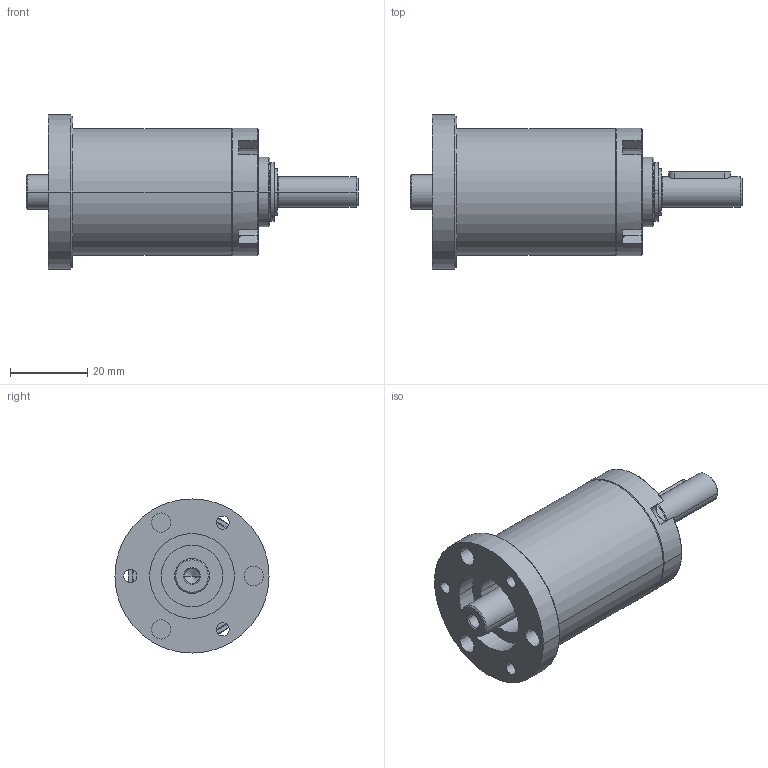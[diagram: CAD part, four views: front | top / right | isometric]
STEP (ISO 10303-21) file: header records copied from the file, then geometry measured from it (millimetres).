
FILE_DESCRIPTION((''),'2;1');
FILE_NAME('IMS33_ECO_MAX_LN_2_STAGE_ASM','2023-07-27T09:22:15',('mhummel'),(''),'CREO PARAMETRIC BY PTC INC, 2020184','CREO PARAMETRIC BY PTC INC, 2020184','');
FILE_SCHEMA(('AUTOMOTIVE_DESIGN { 1 0 10303 214 1 1 1 1 }'));
Length unit declared in the file: millimetre
Products named in the file (12): IMS33_ECO_MAX_LN_BEARING_FLANGE; IMS33_ECO_MAX_LN_SI_BEARING; IMS33_ECO_MAX_LN_RING_GEAR_2ST; IMS33_ECO_MAX_LA_MOTOR_FLANGE; IMS33_ECO_MAX_LN_SHAFT_RAW_AF0; IMS33_ECO_MAX_LN_SHAFT_ASM; IMS33_ECO_MAX_LN_FEATHER_KEY; IMS33_ECO_MAX_LN_RETAINING_RING; IMS33_ECO_MAX_LN_THRUST_WASHER; IMS33_ECO_MAX_LN_MO_PINION_LONG; IMS33_ECO_MAX_LN_MP_SHORT; IMS33_ECO_MAX_LN_2_STAGE_ASM
Assembly tree (11 placements, depth 3):
  IMS33_ECO_MAX_LN_2_STAGE_ASM
    IMS33_ECO_MAX_LN_BEARING_FLANGE
    IMS33_ECO_MAX_LN_SI_BEARING
    IMS33_ECO_MAX_LN_RING_GEAR_2ST
    IMS33_ECO_MAX_LA_MOTOR_FLANGE
    IMS33_ECO_MAX_LN_SHAFT_ASM
      IMS33_ECO_MAX_LN_SHAFT_RAW_AF0
    IMS33_ECO_MAX_LN_FEATHER_KEY
    IMS33_ECO_MAX_LN_RETAINING_RING
    IMS33_ECO_MAX_LN_THRUST_WASHER
    IMS33_ECO_MAX_LN_MO_PINION_LONG
    IMS33_ECO_MAX_LN_MP_SHORT
Bounding box: 86.15 x 40 x 40 mm (x, y, z)
Volume: 24855.8 mm3; surface area: 23781 mm2
Topology: 10 solids, 10 shells, 603 faces, 1372 edges, 818 vertices
Faces by surface type: plane 123, cylinder 121, cone 113, bspline 112, torus 92, sphere 40, revolution 2
Entity records: 28262 total; most frequent: CARTESIAN_POINT 10413, DIRECTION 2743, ORIENTED_EDGE 2736, PRESENTATION_STYLE_ASSIGNMENT 1394, STYLED_ITEM 1394, CURVE_STYLE 1368, EDGE_CURVE 1368, AXIS2_PLACEMENT_3D 1240
